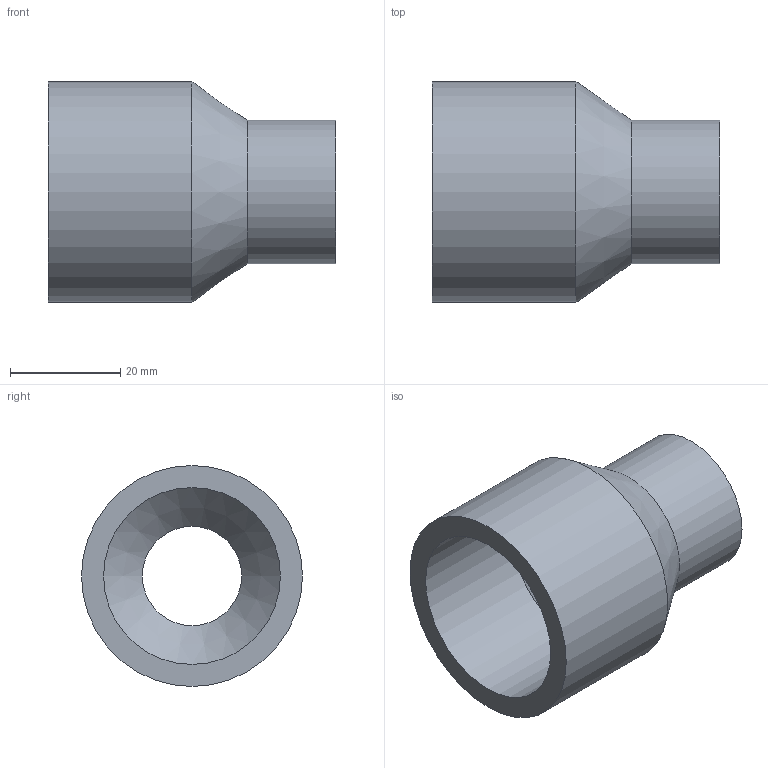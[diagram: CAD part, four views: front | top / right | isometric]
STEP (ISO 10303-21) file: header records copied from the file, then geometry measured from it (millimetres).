
FILE_DESCRIPTION(/* description */ ('PLASSON REDUCING SOCKET M.F.40(32)20 CEMENTED'),/* implementation_level */ '2;1');
FILE_NAME(/* name */ 'C:\Dropbox\KIMPROJECTS-Inventor\99-16-3568-Processing\PVC Catalog 2017\050200\050200040020.ipt.stp',/* time_stamp */ '2017-12-07T15:52:26+02:00',/* author */ ('KIM'),/* organization */ (''),/* preprocessor_version */ 'ST-DEVELOPER v15.6',/* originating_system */ 'Autodesk Inventor 2015',/* authorisation */ '');
FILE_SCHEMA (('AUTOMOTIVE_DESIGN { 1 0 10303 214 3 1 1 }'));
Length unit declared in the file: millimetre
Products named in the file (1): 050200040020
Bounding box: 52 x 40 x 40 mm (x, y, z)
Volume: 21821.5 mm3; surface area: 10958.8 mm2
Topology: 1 solids, 1 shells, 10 faces, 17 edges, 10 vertices
Faces by surface type: cylinder 5, plane 3, cone 2
Full cylindrical faces by diameter (mm): 18 x1, 20 x1, 26 x1, 32 x1, 40 x1
Entity records: 232 total; most frequent: DIRECTION 42, CARTESIAN_POINT 31, AXIS2_PLACEMENT_3D 21, EDGE_LOOP 20, ORIENTED_EDGE 20, FACE_BOUND 10, FACE_OUTER_BOUND 10, CIRCLE 10
